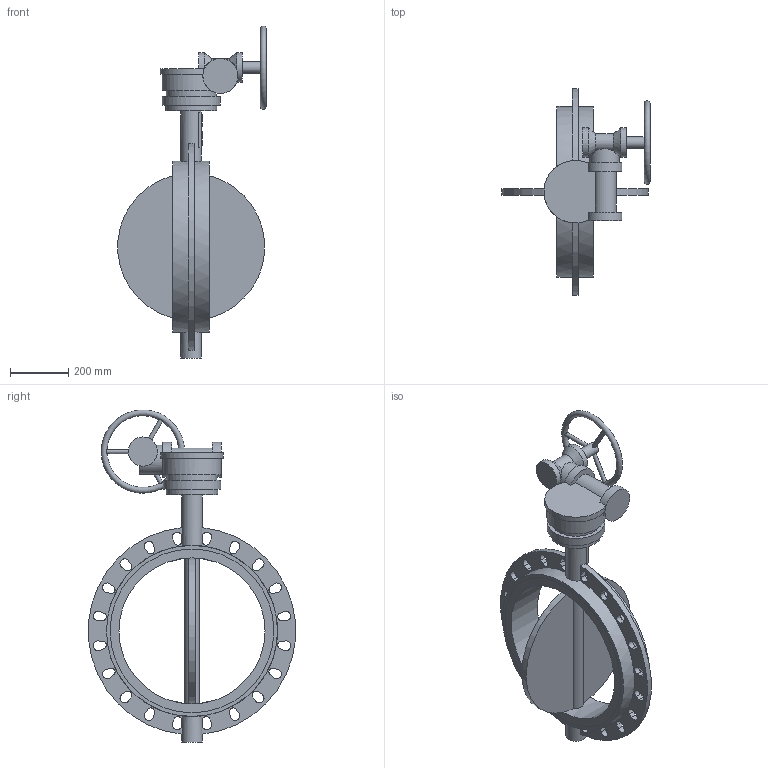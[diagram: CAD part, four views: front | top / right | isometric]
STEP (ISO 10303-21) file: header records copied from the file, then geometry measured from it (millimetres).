
FILE_DESCRIPTION(('STEP AP203'), '1');
FILE_NAME('青蜮铕 017WDN500 疱潴牝铕', '', ('UNSPECIFIED'), ('UNSPECIFIED'), 'ASCON STEP Converter 1.6', 'ASCON Math Kernel', '');
FILE_SCHEMA(('CONFIG_CONTROL_DESIGN'));
Length unit declared in the file: millimetre
Bounding box: 506.58 x 707.32 x 1135.64 mm (x, y, z)
Volume: 23860551.6 mm3; surface area: 1684581.7 mm2
Topology: 1 solids, 1 shells, 756 faces, 2152 edges, 1433 vertices
Faces by surface type: cylinder 538, plane 215, cone 2, torus 1
Full cylindrical faces by diameter (mm): 14 x7, 18 x4, 40 x1, 70 x2, 100 x3, 120 x2, 170 x1, 175 x1, 197 x1, 500 x1, 560 x2, 585 x2
Entity records: 33364 total; most frequent: CARTESIAN_POINT 6594, DIRECTION 4675, ORIENTED_EDGE 4242, EDGE_CURVE 2121, AXIS2_PLACEMENT_3D 1832, VERTEX_POINT 1432, CIRCLE 1075, LINE 1011
